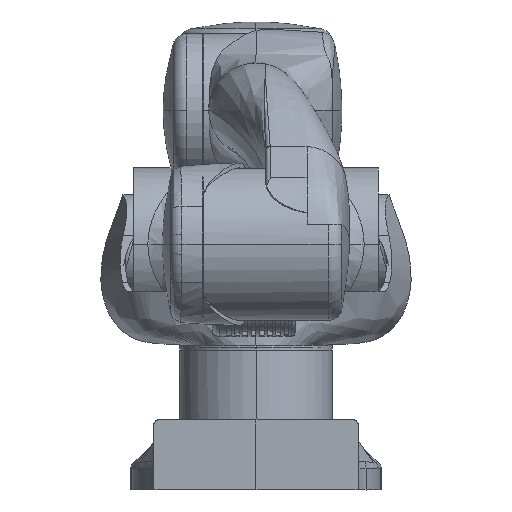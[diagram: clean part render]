
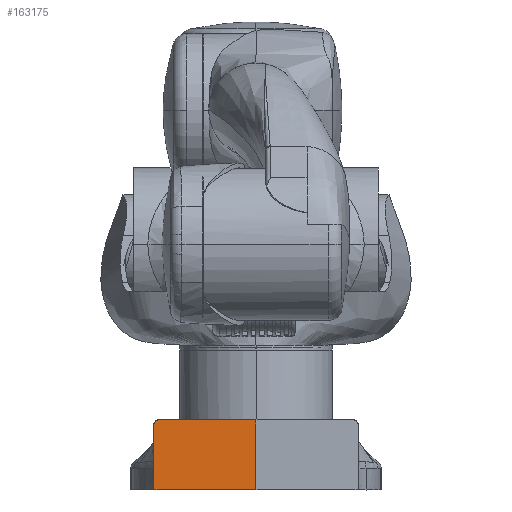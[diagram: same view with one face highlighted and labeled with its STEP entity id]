
A CAD part, left-side view. The second image highlights one B-rep face of the part: STEP entity #163175.
In plain terms, the highlighted free-form (B-spline) face has degree [1, 1] with [3, 4] control points.
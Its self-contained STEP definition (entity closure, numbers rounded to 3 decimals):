
#2459 = B_SPLINE_SURFACE_WITH_KNOTS ( 'NONE', 1, 1, ( 
 ( #91418, #24562, #172580, #107901 ),
 ( #39662, #41104, #153909, #26009 ),
 ( #72778, #203544, #74237, #205704 ) ),
 .UNSPECIFIED., .F., .F., .F.,
 ( 2, 1, 2 ),
 ( 2, 1, 1, 2 ),
 ( -0.065, 0.006, 1. ),
 ( -0.052, -0.042, 0.006, 1. ),
 .UNSPECIFIED. ) ;
#8045 = CARTESIAN_POINT ( 'NONE',  ( -55., 41.711, 29.819 ) ) ;
#16273 = EDGE_CURVE ( 'NONE', #83242, #119172, #56742, .T. ) ;
#16588 = CARTESIAN_POINT ( 'NONE',  ( -55., 0., 30. ) ) ;
#20629 = VERTEX_POINT ( 'NONE', #194601 ) ;
#21708 = CARTESIAN_POINT ( 'NONE',  ( -55., 43.551, 26.888 ) ) ;
#24562 = CARTESIAN_POINT ( 'NONE',  ( -55., 43.551, 30. ) ) ;
#24603 = CARTESIAN_POINT ( 'NONE',  ( -55., 41.828, 29.772 ) ) ;
#26009 = CARTESIAN_POINT ( 'NONE',  ( -55., 0., 28.001 ) ) ;
#28857 = CARTESIAN_POINT ( 'NONE',  ( -55., 41.551, 0. ) ) ;
#39662 = CARTESIAN_POINT ( 'NONE',  ( -55., 43.987, 28.001 ) ) ;
#41104 = CARTESIAN_POINT ( 'NONE',  ( -55., 43.551, 28.001 ) ) ;
#41147 = CARTESIAN_POINT ( 'NONE',  ( -55., 43.028, 28.796 ) ) ;
#42498 = VERTEX_POINT ( 'NONE', #46247 ) ;
#42886 = ORIENTED_EDGE ( 'NONE', *, *, #194561, .T. ) ;
#45488 = CARTESIAN_POINT ( 'NONE',  ( -55., 0., 28.001 ) ) ;
#46247 = CARTESIAN_POINT ( 'NONE',  ( -55., 0., 0. ) ) ;
#53775 = B_SPLINE_CURVE_WITH_KNOTS ( 'NONE', 1,
 ( #203491, #70572 ),
 .UNSPECIFIED., .F., .F.,
 ( 2, 2 ),
 ( 0., 1. ),
 .UNSPECIFIED. ) ;
#55360 = CARTESIAN_POINT ( 'NONE',  ( -55., 43.551, 0. ) ) ;
#56254 = CARTESIAN_POINT ( 'NONE',  ( -55., 41.864, 29.757 ) ) ;
#56742 = B_SPLINE_CURVE_WITH_KNOTS ( 'NONE', 1,
 ( #98545, #16588 ),
 .UNSPECIFIED., .F., .F.,
 ( 2, 2 ),
 ( 0., 1. ),
 .UNSPECIFIED. ) ;
#60771 = EDGE_CURVE ( 'NONE', #20629, #64059, #97710, .T. ) ;
#61346 = EDGE_CURVE ( 'NONE', #42498, #88969, #53775, .T. ) ;
#64059 = VERTEX_POINT ( 'NONE', #55360 ) ;
#70572 = CARTESIAN_POINT ( 'NONE',  ( -55., 0., 28. ) ) ;
#72778 = CARTESIAN_POINT ( 'NONE',  ( -55., 43.987, 0. ) ) ;
#74237 = CARTESIAN_POINT ( 'NONE',  ( -55., 41.551, 0. ) ) ;
#74280 = CARTESIAN_POINT ( 'NONE',  ( -55., 43.288, 28.315 ) ) ;
#75171 = CARTESIAN_POINT ( 'NONE',  ( -55., 43.551, 0. ) ) ;
#78607 = ORIENTED_EDGE ( 'NONE', *, *, #102181, .T. ) ;
#81170 = EDGE_LOOP ( 'NONE', ( #105882, #99499, #78607, #91685, #161308, #148244, #42886 ) ) ;
#83242 = VERTEX_POINT ( 'NONE', #195704 ) ;
#86822 = CARTESIAN_POINT ( 'NONE',  ( -55., 0., 0. ) ) ;
#87184 = CARTESIAN_POINT ( 'NONE',  ( -55., 40.551, 30. ) ) ;
#88969 = VERTEX_POINT ( 'NONE', #174617 ) ;
#90762 = CARTESIAN_POINT ( 'NONE',  ( -55., 43.314, 28.253 ) ) ;
#91418 = CARTESIAN_POINT ( 'NONE',  ( -55., 43.987, 30. ) ) ;
#91685 = ORIENTED_EDGE ( 'NONE', *, *, #61346, .T. ) ;
#94111 = FACE_OUTER_BOUND ( 'NONE', #81170, .T. ) ;
#96458 = CARTESIAN_POINT ( 'NONE',  ( -55., 0., 30. ) ) ;
#97710 = B_SPLINE_CURVE_WITH_KNOTS ( 'NONE', 1,
 ( #173486, #75171 ),
 .UNSPECIFIED., .F., .F.,
 ( 2, 2 ),
 ( 0., 1. ),
 .UNSPECIFIED. ) ;
#98545 = CARTESIAN_POINT ( 'NONE',  ( -55., 40.551, 30. ) ) ;
#99499 = ORIENTED_EDGE ( 'NONE', *, *, #105303, .F. ) ;
#102181 = EDGE_CURVE ( 'NONE', #165744, #42498, #182700, .T. ) ;
#105054 = CARTESIAN_POINT ( 'NONE',  ( -55., 41.54, 29.877 ) ) ;
#105303 = EDGE_CURVE ( 'NONE', #165744, #64059, #110055, .T. ) ;
#105882 = ORIENTED_EDGE ( 'NONE', *, *, #60771, .T. ) ;
#107901 = CARTESIAN_POINT ( 'NONE',  ( -55., 0., 30. ) ) ;
#110055 = B_SPLINE_CURVE_WITH_KNOTS ( 'NONE', 1,
 ( #28857, #127249 ),
 .UNSPECIFIED., .F., .F.,
 ( 2, 2 ),
 ( 0., 1. ),
 .UNSPECIFIED. ) ;
#119172 = VERTEX_POINT ( 'NONE', #96458 ) ;
#120151 = CARTESIAN_POINT ( 'NONE',  ( -55., 43.549, 27.417 ) ) ;
#121581 = CARTESIAN_POINT ( 'NONE',  ( -55., 41.794, 29.787 ) ) ;
#127249 = CARTESIAN_POINT ( 'NONE',  ( -55., 43.551, 0. ) ) ;
#129871 = EDGE_CURVE ( 'NONE', #88969, #119172, #164943, .T. ) ;
#136710 = CARTESIAN_POINT ( 'NONE',  ( -55., 43.255, 28.386 ) ) ;
#137071 = CARTESIAN_POINT ( 'NONE',  ( -55., 41.551, 0. ) ) ;
#138882 = CARTESIAN_POINT ( 'NONE',  ( -55., 43.31, 28.263 ) ) ;
#139602 = CARTESIAN_POINT ( 'NONE',  ( -55., 42.485, 29.402 ) ) ;
#148244 = ORIENTED_EDGE ( 'NONE', *, *, #16273, .F. ) ;
#153909 = CARTESIAN_POINT ( 'NONE',  ( -55., 41.551, 28.001 ) ) ;
#155397 = CARTESIAN_POINT ( 'NONE',  ( -55., 42.196, 29.607 ) ) ;
#161308 = ORIENTED_EDGE ( 'NONE', *, *, #129871, .T. ) ;
#163175 = ADVANCED_FACE ( 'NONE', ( #94111 ), #2459, .T. ) ;
#164943 = B_SPLINE_CURVE_WITH_KNOTS ( 'NONE', 1,
 ( #176948, #45488, #212880 ),
 .UNSPECIFIED., .F., .F.,
 ( 2, 1, 2 ),
 ( 0., 0., 1. ),
 .UNSPECIFIED. ) ;
#165744 = VERTEX_POINT ( 'NONE', #189052 ) ;
#166223 = CARTESIAN_POINT ( 'NONE',  ( -55., 40.811, 29.998 ) ) ;
#171163 = CARTESIAN_POINT ( 'NONE',  ( -55., 42.861, 29.007 ) ) ;
#172580 = CARTESIAN_POINT ( 'NONE',  ( -55., 41.551, 30. ) ) ;
#172620 = CARTESIAN_POINT ( 'NONE',  ( -55., 43.186, 28.527 ) ) ;
#173486 = CARTESIAN_POINT ( 'NONE',  ( -55., 43.551, 26.888 ) ) ;
#174617 = CARTESIAN_POINT ( 'NONE',  ( -55., 0., 28. ) ) ;
#176948 = CARTESIAN_POINT ( 'NONE',  ( -55., 0., 28. ) ) ;
#182700 = B_SPLINE_CURVE_WITH_KNOTS ( 'NONE', 1,
 ( #137071, #86822 ),
 .UNSPECIFIED., .F., .F.,
 ( 2, 2 ),
 ( 0., 1. ),
 .UNSPECIFIED. ) ;
#188453 = CARTESIAN_POINT ( 'NONE',  ( -55., 41.171, 29.967 ) ) ;
#189052 = CARTESIAN_POINT ( 'NONE',  ( -55., 41.551, 0. ) ) ;
#189169 = CARTESIAN_POINT ( 'NONE',  ( -55., 43.301, 28.283 ) ) ;
#194561 = EDGE_CURVE ( 'NONE', #83242, #20629, #205479, .T. ) ;
#194601 = CARTESIAN_POINT ( 'NONE',  ( -55., 43.551, 26.888 ) ) ;
#195704 = CARTESIAN_POINT ( 'NONE',  ( -55., 40.551, 30. ) ) ;
#202871 = CARTESIAN_POINT ( 'NONE',  ( -55., 41.851, 29.762 ) ) ;
#203491 = CARTESIAN_POINT ( 'NONE',  ( -55., 0., 0. ) ) ;
#203544 = CARTESIAN_POINT ( 'NONE',  ( -55., 43.551, 0. ) ) ;
#205479 = B_SPLINE_CURVE_WITH_KNOTS ( 'NONE', 3,
 ( #87184, #166223, #188453, #105054, #8045, #121581, #24603, #202871, #56254, #155397, #139602, #171163, #41147, #172620, #136710, #74280, #189169, #138882, #90762, #205743, #120151, #21708 ),
 .UNSPECIFIED., .F., .F.,
 ( 4, 1, 1, 1, 1, 2, 2, 2, 1, 1, 1, 1, 2, 2, 4 ),
 ( 0., 0.125, 0.188, 0.219, 0.234, 0.242, 0.25, 0.5, 0.625, 0.688, 0.719, 0.734, 0.742, 0.75, 1. ),
 .UNSPECIFIED. ) ;
#205704 = CARTESIAN_POINT ( 'NONE',  ( -55., 0., 0. ) ) ;
#205743 = CARTESIAN_POINT ( 'NONE',  ( -55., 43.472, 27.868 ) ) ;
#212880 = CARTESIAN_POINT ( 'NONE',  ( -55., 0., 30. ) ) ;
